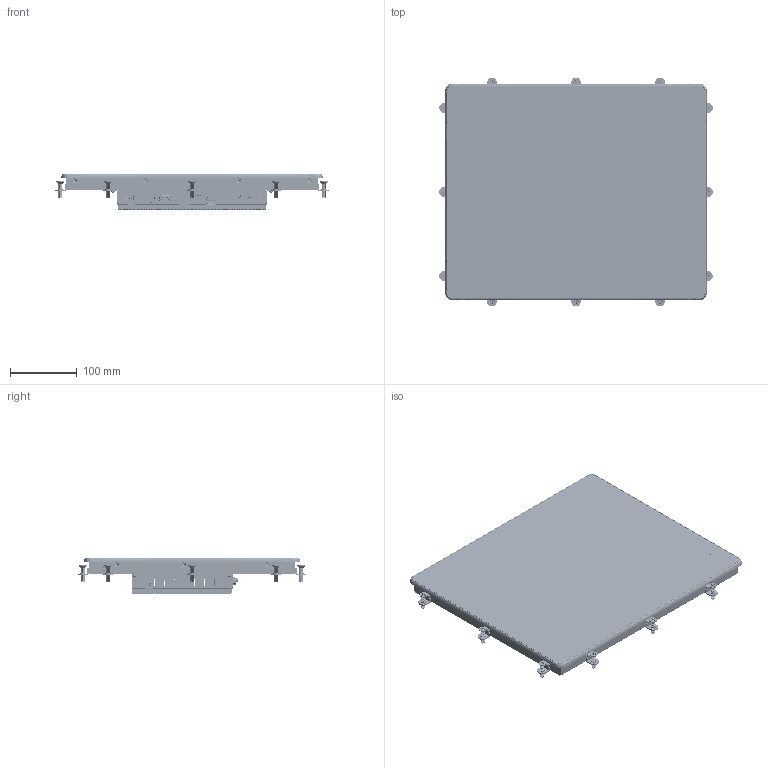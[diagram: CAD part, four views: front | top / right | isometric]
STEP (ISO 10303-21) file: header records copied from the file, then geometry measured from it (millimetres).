
FILE_DESCRIPTION((''),'2;1');
FILE_NAME('NPL4C-170','2026-06-02T10:59:01',('gijyu181'),(''),'CREO PARAMETRIC BY PTC INC, 2018050','CREO PARAMETRIC BY PTC INC, 2018050','');
FILE_SCHEMA(('CONFIG_CONTROL_DESIGN','SHAPE_APPEARANCE_LAYERS_GROUPS'));
Products named in the file (1): NPL4C-170
Bounding box: 410.1 x 342.6 x 54.5 mm (x, y, z)
Volume: 2013887.9 mm3; surface area: 1100429.1 mm2
Topology: 67 solids, 124 shells, 24413 faces, 71039 edges, 46737 vertices
Faces by surface type: plane 16166, cylinder 5621, extrusion 1236, bspline 592, cone 460, torus 217, sphere 105, revolution 16
Entity records: 1017712 total; most frequent: CARTESIAN_POINT 265105, ORIENTED_EDGE 141782, DIRECTION 123178, EDGE_CURVE 70965, VECTOR 55272, LINE 54036, VERTEX_POINT 46735, AXIS2_PLACEMENT_3D 33945
